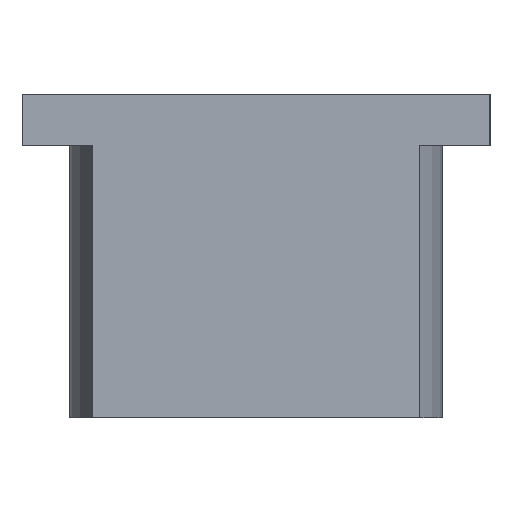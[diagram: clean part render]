
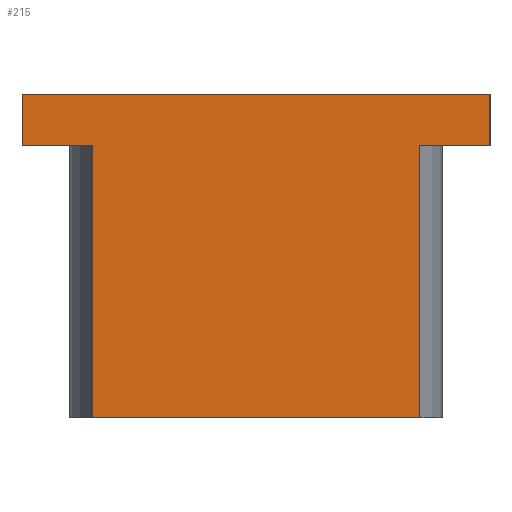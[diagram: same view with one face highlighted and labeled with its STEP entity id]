
A CAD part, left-side view. The second image highlights one B-rep face of the part: STEP entity #215.
In plain terms, the highlighted planar face has unit normal (-1, 0, 0).
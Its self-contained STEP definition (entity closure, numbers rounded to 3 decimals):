
#39=FACE_OUTER_BOUND('',#51,.T.);
#51=EDGE_LOOP('',(#173,#174,#175,#176,#177,#178,#179,#180));
#58=LINE('',#339,#76);
#64=LINE('',#354,#82);
#65=LINE('',#363,#83);
#66=LINE('',#365,#84);
#68=LINE('',#374,#86);
#70=LINE('',#380,#88);
#71=LINE('',#382,#89);
#72=LINE('',#383,#90);
#76=VECTOR('',#270,10.);
#82=VECTOR('',#284,10.);
#83=VECTOR('',#293,10.);
#84=VECTOR('',#294,10.);
#86=VECTOR('',#304,10.);
#88=VECTOR('',#312,10.);
#89=VECTOR('',#313,10.);
#90=VECTOR('',#314,10.);
#93=VERTEX_POINT('',#335);
#95=VERTEX_POINT('',#338);
#99=VERTEX_POINT('',#350);
#100=VERTEX_POINT('',#352);
#104=VERTEX_POINT('',#361);
#105=VERTEX_POINT('',#364);
#108=VERTEX_POINT('',#372);
#110=VERTEX_POINT('',#381);
#114=EDGE_CURVE('',#93,#95,#58,.T.);
#122=EDGE_CURVE('',#99,#100,#64,.T.);
#126=EDGE_CURVE('',#104,#100,#65,.T.);
#127=EDGE_CURVE('',#95,#105,#66,.T.);
#132=EDGE_CURVE('',#104,#108,#68,.T.);
#135=EDGE_CURVE('',#99,#93,#70,.T.);
#136=EDGE_CURVE('',#110,#108,#71,.T.);
#137=EDGE_CURVE('',#105,#110,#72,.T.);
#173=ORIENTED_EDGE('',*,*,#135,.F.);
#174=ORIENTED_EDGE('',*,*,#122,.T.);
#175=ORIENTED_EDGE('',*,*,#126,.F.);
#176=ORIENTED_EDGE('',*,*,#132,.T.);
#177=ORIENTED_EDGE('',*,*,#136,.F.);
#178=ORIENTED_EDGE('',*,*,#137,.F.);
#179=ORIENTED_EDGE('',*,*,#127,.F.);
#180=ORIENTED_EDGE('',*,*,#114,.F.);
#206=PLANE('',#256);
#215=ADVANCED_FACE('',(#39),#206,.T.);
#256=AXIS2_PLACEMENT_3D('',#379,#310,#311);
#270=DIRECTION('',(0.,0.,-1.));
#284=DIRECTION('',(0.,0.,-1.));
#293=DIRECTION('',(0.,1.,0.));
#294=DIRECTION('',(0.,1.,0.));
#304=DIRECTION('',(0.,0.,-1.));
#310=DIRECTION('center_axis',(-1.,0.,0.));
#311=DIRECTION('ref_axis',(0.,1.,0.));
#312=DIRECTION('',(0.,-1.,0.));
#313=DIRECTION('',(0.,1.,0.));
#314=DIRECTION('',(0.,0.,-1.));
#335=CARTESIAN_POINT('',(0.,-9.4,0.));
#338=CARTESIAN_POINT('',(0.,-9.4,-2.05));
#339=CARTESIAN_POINT('',(0.,-9.4,0.));
#350=CARTESIAN_POINT('',(0.,9.4,0.));
#352=CARTESIAN_POINT('',(0.,9.4,-2.05));
#354=CARTESIAN_POINT('',(0.,9.4,0.));
#361=CARTESIAN_POINT('',(0.,6.58,-2.05));
#363=CARTESIAN_POINT('',(0.,9.4,-2.05));
#364=CARTESIAN_POINT('',(0.,-6.58,-2.05));
#365=CARTESIAN_POINT('',(0.,9.4,-2.05));
#372=CARTESIAN_POINT('',(0.,6.58,-13.));
#374=CARTESIAN_POINT('',(0.,6.58,0.));
#379=CARTESIAN_POINT('Origin',(0.,-6.58,0.));
#380=CARTESIAN_POINT('',(0.,6.58,0.));
#381=CARTESIAN_POINT('',(0.,-6.58,-13.));
#382=CARTESIAN_POINT('',(0.,6.58,-13.));
#383=CARTESIAN_POINT('',(0.,-6.58,0.));
